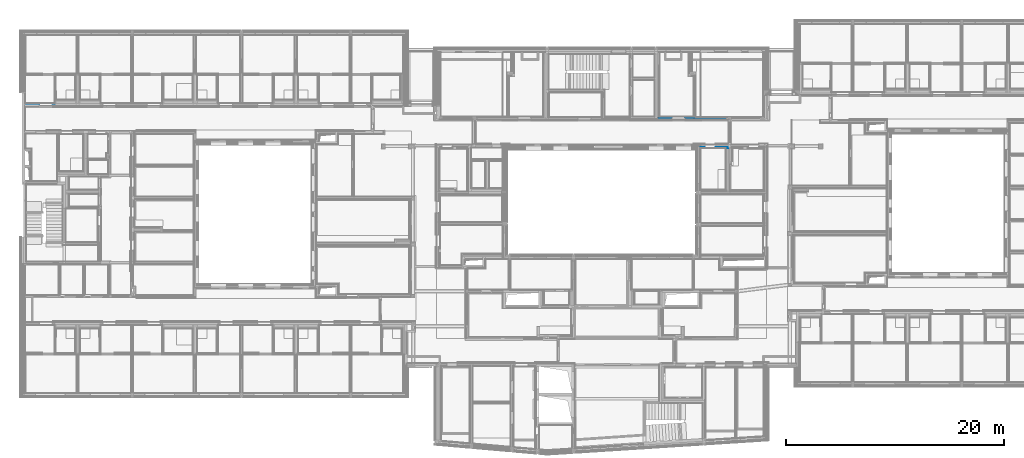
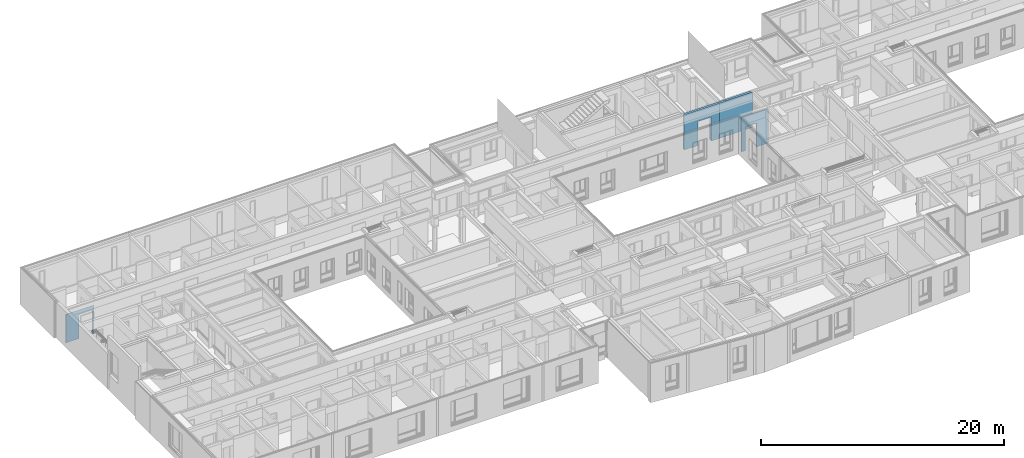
# One storey, part 34 of 222: 5 walls, 4 openings.
"""IFC4 building model written with IfcOpenShell, lengths in metres."""

from ifc_helpers import new_model, entity, si_unit, converted_unit, derived_unit, frame, frame_2d, origin, origin_with_axes, place, context, subcontext, project, spatial, polyline, rectangle, outline, extrude, clip, bounded_halfspace, material, element, save


model = new_model("IFC4")

# Units and contexts
model_context = context("Model", 3, precision=1e-05, world=origin())
body_context = subcontext(model_context, "Body", "Model", "MODEL_VIEW")
ifc_project = project(units=[si_unit("LENGTHUNIT", "METRE"), si_unit("AREAUNIT", "SQUARE_METRE"), si_unit("VOLUMEUNIT", "CUBIC_METRE"), si_unit("MASSUNIT", "GRAM", prefix="KILO"), converted_unit("PLANEANGLEUNIT", "DEGREE", entity("IfcPlaneAngleMeasure", 0.0174532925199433), si_unit("PLANEANGLEUNIT", "RADIAN"), dimensions=[0, 0, 0, 0, 0, 0, 0]), derived_unit("THERMALTRANSMITTANCEUNIT", [(si_unit("POWERUNIT", "WATT"), 1), (si_unit("THERMODYNAMICTEMPERATUREUNIT", "KELVIN"), -1), (si_unit("LENGTHUNIT", "METRE"), -2)]), derived_unit("VOLUMETRICFLOWRATEUNIT", [(si_unit("LENGTHUNIT", "METRE"), 3), (converted_unit("TIMEUNIT", "hour", entity("IfcTimeMeasure", 3600.0), si_unit("TIMEUNIT", "SECOND"), dimensions=[0, 0, 1, 0, 0, 0, 0]), -1), (si_unit("LENGTHUNIT", "METRE"), -1)])], contexts=[model_context])

# Site, building, storey
site_placement = place(None, origin())
site = spatial("IfcSite", under=ifc_project, at=site_placement, Name="Psychiatrie Neubau Wunstorf", CompositionType="ELEMENT")
building_placement = place(site_placement, origin())
building = spatial("IfcBuilding", under=site, at=building_placement, Name="Neubau H2 Stationsgebäude", CompositionType="ELEMENT")
storey_placement = place(building_placement, frame((0.0, 0.0, 3.6)))
storey = spatial("IfcBuildingStorey", under=building, at=storey_placement, Name="H2 Ebene +1", CompositionType="ELEMENT", Elevation=3.6)

# Wall
ifc_material_1 = material(Name="WI-HW 60")
wall_1_placement = place(storey_placement, frame((61.4639999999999, 22.8639999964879, 0.0), z_axis=(0.0, 0.0, 1.0), x_axis=(1.0, -5.78874816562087e-13, 0.0)))
element("IfcWall", 1, at=wall_1_placement, inside=storey, material=ifc_material_1, context=body_context, shape_type="Clipping", body=[
    clip(clip(extrude(rectangle(XDim=3.1360000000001, YDim=0.232, at=frame_2d((1.56800000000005, 0.116), x_axis=(1.0, 0.0))), origin_with_axes(), (0.0, 0.0, 1.0), 3.55), bounded_halfspace(frame((3.05225000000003, 0.116000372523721, 3.25), z_axis=(0.0, 0.0, -1.0), x_axis=(-5.78874816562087e-13, 1.0, 0.0)), True, origin_with_axes(), polyline([(3.13600000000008, 0.0360003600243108), (3.13599999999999, 0.196000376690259), (2.96850000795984, 0.196000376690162), (2.96849999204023, 0.0360003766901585), (3.13600000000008, 0.0360003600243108)]))), bounded_halfspace(frame((0.29925000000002, 0.115999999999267, 3.51), z_axis=(0.0, 0.0, -1.0), x_axis=(1.0, 1.41786305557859e-15, 0.0)), True, origin_with_axes(), polyline([(0.0, 0.0), (0.598500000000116, 0.0), (0.598499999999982, 0.231999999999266), (0.0, 0.231999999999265), (0.0, 0.0)]))),
])

# Wall, opening
ifc_material_2 = material(Name="WI-LB")
wall_2_placement = place(storey_placement, frame((0.208999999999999, 24.3495, 0.0)))
wall_2 = element("IfcWall", 2, at=wall_2_placement, inside=storey, material=ifc_material_2, context=body_context, shape_type="SweptSolid", body=[
    extrude(rectangle(XDim=2.66600000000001, YDim=0.0399999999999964, at=frame_2d((1.333, 0.0199999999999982), x_axis=(1.0, 0.0))), origin_with_axes(), (0.0, 0.0, 1.0), 2.85),
])
opening_1_placement = place(wall_2_placement, frame((1.256, 0.0, 0.0), z_axis=(0.0, 1.0, 0.0), x_axis=(0.0, 0.0, 1.0)))
element("IfcOpeningElement", 3, at=opening_1_placement, cuts=wall_2, Name="Türöffnung", ObjectType="Opening", context=body_context, shape_type="SweptSolid", body=[
    extrude(outline(polyline([(2.41, 1.26), (2.41, 0.0), (0.0, 0.0), (0.0, 1.26), (2.41, 1.26)])), origin_with_axes(), (0.0, 0.0, 1.0), 0.0399999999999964),
])

ifc_material_3 = material(Name="WI-HW 60")
wall_3_placement = place(storey_placement, frame((58.1, 22.8639999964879, 0.0)))
wall_3 = element("IfcWall", 4, at=wall_3_placement, inside=storey, material=ifc_material_3, context=body_context, shape_type="SweptSolid", body=[
    extrude(outline(polyline([(0.0, 0.0), (3.36399999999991, 0.0), (3.36400000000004, 0.232), (0.225, 0.232), (0.0, 0.232), (0.0, 0.0)])), origin_with_axes(), (0.0, 0.0, 1.0), 3.51),
])
opening_2_placement = place(wall_3_placement, frame((1.32500000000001, 0.0, 0.0), z_axis=(0.0, 1.0, 0.0), x_axis=(0.0, 0.0, 1.0)))
element("IfcOpeningElement", 5, at=opening_2_placement, cuts=wall_3, Name="Türöffnung", ObjectType="Opening", context=body_context, shape_type="SweptSolid", body=[
    extrude(outline(polyline([(2.41, 1.26), (2.41, 0.0), (0.0, 0.0), (0.0, 1.26), (2.41, 1.26)])), origin_with_axes(), (0.0, 0.0, 1.0), 0.232),
])

ifc_material_4 = material(Name="WI-LB")
wall_4_placement = place(storey_placement, frame((58.325, 23.0959999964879, 0.0)))
wall_4 = element("IfcWall", 6, at=wall_4_placement, inside=storey, material=ifc_material_4, context=body_context, shape_type="SweptSolid", body=[
    extrude(rectangle(XDim=3.13899999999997, YDim=0.075, at=frame_2d((1.56949999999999, 0.0375), x_axis=(1.0, 0.0))), origin_with_axes(), (0.0, 0.0, 1.0), 2.81),
])
opening_3_placement = place(wall_4_placement, frame((1.10000000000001, 0.0, 0.0), z_axis=(0.0, 1.0, 0.0), x_axis=(0.0, 0.0, 1.0)))
element("IfcOpeningElement", 7, at=opening_3_placement, cuts=wall_4, Name="Türöffnung", ObjectType="Opening", context=body_context, shape_type="SweptSolid", body=[
    extrude(outline(polyline([(2.41, 1.26), (2.41, 0.0), (0.0, 0.0), (0.0, 1.26), (2.41, 1.26)])), origin_with_axes(), (0.0, 0.0, 1.0), 0.075),
])

ifc_material_5 = material(Name="WI-LB")
wall_5_placement = place(storey_placement, frame((64.61, 20.353998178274, 0.0), z_axis=(0.0, 0.0, 1.0), x_axis=(-1.0, 0.0, 0.0)))
wall_5 = element("IfcWall", 8, at=wall_5_placement, inside=storey, material=ifc_material_5, context=body_context, shape_type="SweptSolid", body=[
    extrude(rectangle(XDim=2.54899999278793, YDim=0.0749999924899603, at=frame_2d((1.27449999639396, 0.0374999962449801), x_axis=(1.0, 0.0))), origin_with_axes(), (0.0, 0.0, 1.0), 3.45),
])
opening_4_placement = place(wall_5_placement, frame((1.14999998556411, 0.0, 0.0), z_axis=(0.0, 1.0, 0.0), x_axis=(0.0, 0.0, 1.0)))
element("IfcOpeningElement", 9, at=opening_4_placement, cuts=wall_5, Name="Türöffnung", ObjectType="Opening", context=body_context, shape_type="SweptSolid", body=[
    extrude(outline(polyline([(2.41, 1.01), (2.41, 0.0), (0.0, 0.0), (0.0, 1.01), (2.41, 1.01)])), origin_with_axes(), (0.0, 0.0, 1.0), 0.0749999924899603),
])

save(model, "model.ifc")
